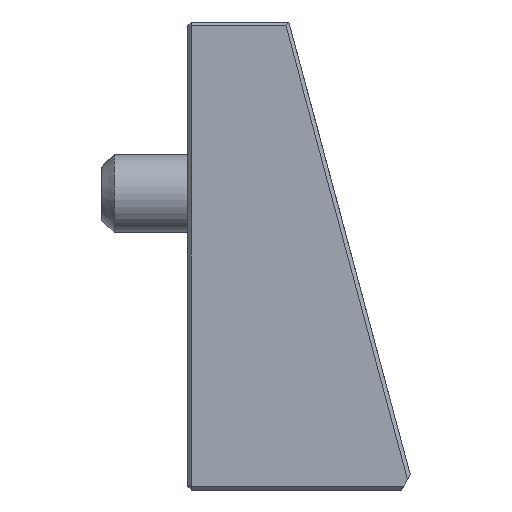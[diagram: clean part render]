
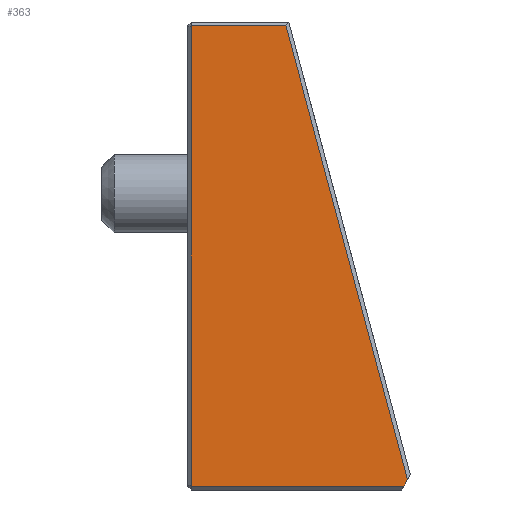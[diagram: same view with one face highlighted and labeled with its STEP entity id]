
A CAD part, left-side view. The second image highlights one B-rep face of the part: STEP entity #363.
In plain terms, the highlighted planar face has unit normal (-1, 0, 0).
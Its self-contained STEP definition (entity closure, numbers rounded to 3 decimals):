
#363=ADVANCED_FACE('',(#1086),#1088,.F.);
#1086=FACE_BOUND('',#1087,.T.);
#1087=EDGE_LOOP('',(#1430,#1431,#1432,#1433,#1434));
#1088=PLANE('',#1089);
#1089=AXIS2_PLACEMENT_3D('',#1090,#1091,#1092);
#1090=CARTESIAN_POINT('',(-50.,0.,0.));
#1091=DIRECTION('',(1.,0.,0.));
#1092=DIRECTION('',(0.,1.,0.));
#1430=ORIENTED_EDGE('',*,*,#1572,.F.);
#1431=ORIENTED_EDGE('',*,*,#1584,.F.);
#1432=ORIENTED_EDGE('',*,*,#1600,.F.);
#1433=ORIENTED_EDGE('',*,*,#1591,.F.);
#1434=ORIENTED_EDGE('',*,*,#1601,.F.);
#1572=EDGE_CURVE('',#1721,#1723,#1724,.F.);
#1584=EDGE_CURVE('',#1742,#1721,#1744,.T.);
#1591=EDGE_CURVE('',#1752,#1755,#1756,.T.);
#1600=EDGE_CURVE('',#1755,#1742,#1768,.T.);
#1601=EDGE_CURVE('',#1723,#1752,#1769,.T.);
#1721=VERTEX_POINT('',#2759);
#1723=VERTEX_POINT('',#2763);
#1724=LINE('',#2764,#2765);
#1742=VERTEX_POINT('',#2804);
#1744=LINE('',#2808,#2809);
#1752=VERTEX_POINT('',#2873);
#1755=VERTEX_POINT('',#2880);
#1756=LINE('',#2881,#2882);
#1768=LINE('',#2912,#2913);
#1769=LINE('',#2915,#2916);
#2759=CARTESIAN_POINT('',(-50.,-28.206,-36.681));
#2763=CARTESIAN_POINT('',(-50.,-27.733,-37.5));
#2764=CARTESIAN_POINT('',(-50.,-27.733,-37.5));
#2765=VECTOR('',#2766,1.);
#2766=DIRECTION('',(0.,-0.5,0.866));
#2804=CARTESIAN_POINT('',(-50.,-12.616,21.5));
#2808=CARTESIAN_POINT('',(-50.,-12.616,21.5));
#2809=VECTOR('',#2810,1.);
#2810=DIRECTION('',(0.,-0.259,-0.966));
#2873=CARTESIAN_POINT('',(-50.,-0.5,-37.5));
#2880=CARTESIAN_POINT('',(-50.,-0.5,21.5));
#2881=CARTESIAN_POINT('',(-50.,-0.5,-37.5));
#2882=VECTOR('',#2883,1.);
#2883=DIRECTION('',(0.,0.,1.));
#2912=CARTESIAN_POINT('',(-50.,-0.5,21.5));
#2913=VECTOR('',#2914,1.);
#2914=DIRECTION('',(0.,-1.,0.));
#2915=CARTESIAN_POINT('',(-50.,-27.733,-37.5));
#2916=VECTOR('',#2917,1.);
#2917=DIRECTION('',(0.,1.,0.));
